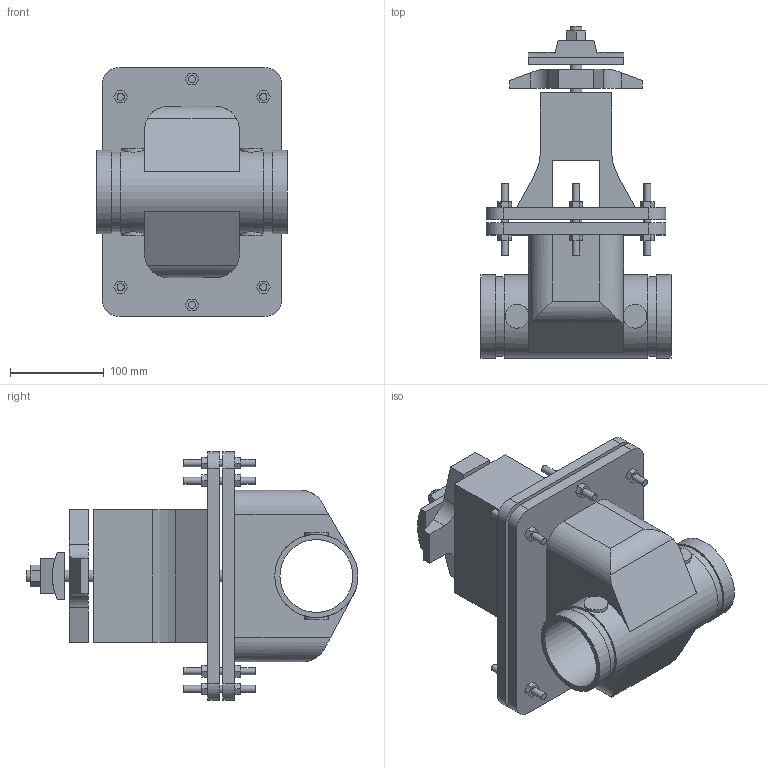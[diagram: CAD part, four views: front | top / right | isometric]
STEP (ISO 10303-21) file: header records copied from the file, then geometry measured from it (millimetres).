
FILE_DESCRIPTION(/* description */ ('VIC GATE VALVE SERIES 772H NRS','CAx-IF Rec.Pracs.---Representation and Presentation of Product Manufacturing Information (PMI)---4.0---2014-10-13'),/* implementation_level */ '2;1');
FILE_NAME(/* name */ 'C:\Users\Vjadhav\AppData\Roaming\Autodesk\ApplicationPlugins\Back Up\Victaulic_FP-FireLock_Valve Gate NRS_Series 772H (OGS)\Victaulic_FP-FireLock_Valve Gate NRS_Series 772H (OGS)_3 (80).stp',/* time_stamp */ '2020-07-20T15:49:27+05:00',/* author */ ('kkamble'),/* organization */ ('Victaulic'),/* preprocessor_version */ 'ST-DEVELOPER v17.2',/* originating_system */ 'Autodesk Inventor 2019',/* authorisation */ '');
FILE_SCHEMA (('AP242_MANAGED_MODEL_BASED_3D_ENGINEERING_MIM_LF { 1 0 10303 442 1 1 4 }'));
Length unit declared in the file: inch
Products named in the file (1): 772H-03.0
Bounding box: 203 x 354.58 x 265.94 mm (x, y, z)
Volume: 4420363.3 mm3; surface area: 482436.7 mm2
Topology: 1 solids, 1 shells, 221 faces, 551 edges, 371 vertices
Faces by surface type: plane 168, cylinder 53
Full cylindrical faces by diameter (mm): 7.62 x18, 12.7 x4, 77.787 x1, 84.938 x2, 88.9 x3
Entity records: 7109 total; most frequent: CARTESIAN_POINT 1297, DIRECTION 1142, ORIENTED_EDGE 1102, EDGE_CURVE 551, LINE 422, VECTOR 422, VERTEX_POINT 371, AXIS2_PLACEMENT_3D 360
